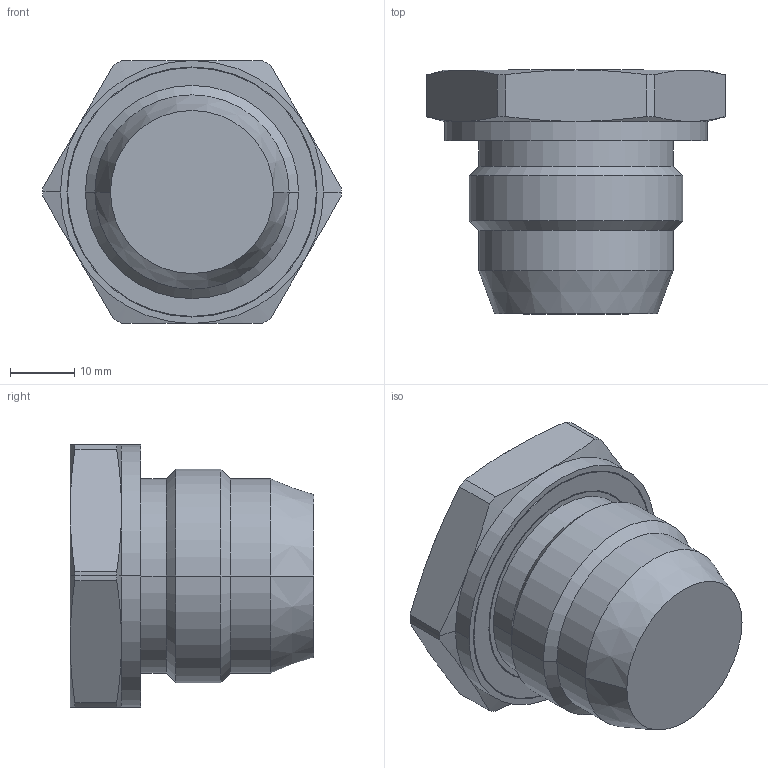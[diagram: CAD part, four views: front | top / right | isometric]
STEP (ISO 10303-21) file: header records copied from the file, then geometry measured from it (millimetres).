
FILE_DESCRIPTION( ( '' ), '1' );
FILE_NAME( '//partserver001.servicenet/client_exchange/iodir/jobs/output/wkb8808383_no5/STEP/e30070_2_03.stp', '2007-12-14T06:51:22', ( '' ), ( '' ), ' ', ' ', ' ' );
FILE_SCHEMA( ( 'CONFIG_CONTROL_DESIGN' ) );
Length unit declared in the file: millimetre
Products named in the file (1): 1
Bounding box: 46.5 x 38 x 41 mm (x, y, z)
Volume: 35495.2 mm3; surface area: 6936.8 mm2
Topology: 1 solids, 1 shells, 59 faces, 128 edges, 76 vertices
Faces by surface type: cylinder 24, cone 22, plane 13
Entity records: 1622 total; most frequent: CARTESIAN_POINT 312, DIRECTION 288, ORIENTED_EDGE 256, EDGE_CURVE 128, AXIS2_PLACEMENT_3D 124, VERTEX_POINT 76, EDGE_LOOP 64, CIRCLE 64
